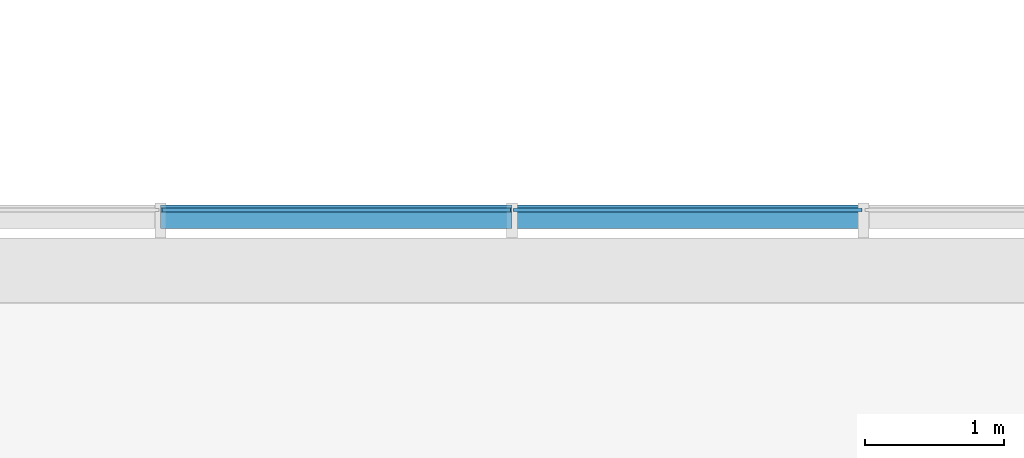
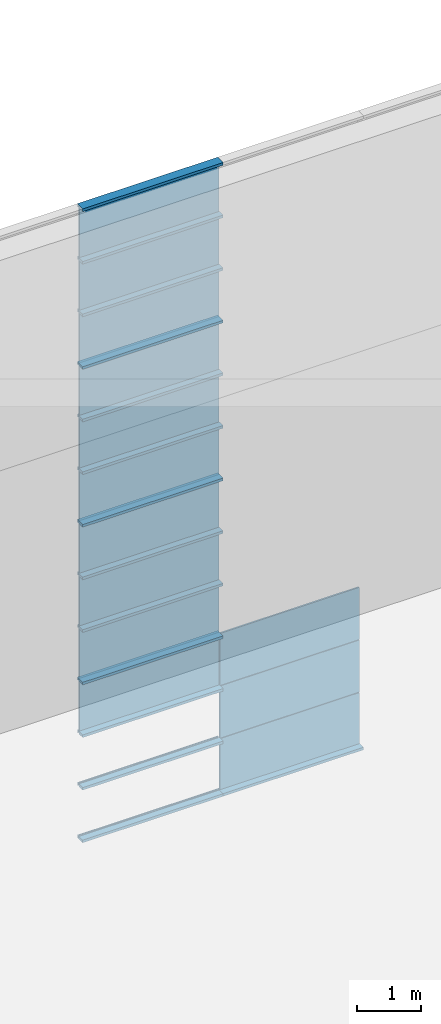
# One storey, part 61 of 105: 30 building element parts, 4 elements without a shape of their own.
"""IFC4 building model written with IfcOpenShell, lengths in millimetres."""

from ifc_helpers import new_model, entity, si_unit, converted_unit, derived_unit, direction, frame, origin_with_axes, place, context, subcontext, project, spatial, triangles, material, element, aggregate, save


model = new_model("IFC4")

# Units and contexts
model_context = context("Model", 3, precision=1e-05, world=origin_with_axes(), true_north=direction((0.0, 1.0)))
body_context = subcontext(model_context, "Body", "Model", "MODEL_VIEW")
ifc_project = project(units=[si_unit("LENGTHUNIT", "METRE", prefix="MILLI"), si_unit("AREAUNIT", "SQUARE_METRE"), si_unit("VOLUMEUNIT", "CUBIC_METRE"), converted_unit("PLANEANGLEUNIT", "DEGREE", entity("IfcLengthMeasure", 0.017453), si_unit("PLANEANGLEUNIT", "RADIAN"), dimensions=[0, 0, 0, 0, 0, 0, 0]), si_unit("SOLIDANGLEUNIT", "STERADIAN"), si_unit("MASSUNIT", "GRAM"), si_unit("TIMEUNIT", "SECOND"), si_unit("THERMODYNAMICTEMPERATUREUNIT", "DEGREE_CELSIUS"), si_unit("LUMINOUSINTENSITYUNIT", "LUMEN"), si_unit("POWERUNIT", "WATT"), derived_unit("THERMALTRANSMITTANCEUNIT", [(si_unit("POWERUNIT", "WATT"), 1), (si_unit("THERMODYNAMICTEMPERATUREUNIT", "KELVIN"), -1), (si_unit("AREAUNIT", "SQUARE_METRE"), -1)])], contexts=[model_context])

# Site, building, storey
site_placement = place(None, origin_with_axes())
site = spatial("IfcSite", under=ifc_project, at=site_placement, Name="Default Site", CompositionType="ELEMENT")
building_placement = place(site_placement, origin_with_axes())
building = spatial("IfcBuilding", under=site, at=building_placement, Name="Default Building", CompositionType="ELEMENT")
storey_placement = place(building_placement, origin_with_axes())
storey = spatial("IfcBuildingStorey", under=building, at=storey_placement, Name="OG - Story", CompositionType="ELEMENT", Elevation=0.0)

# Curtain wall, building element parts
curtain_wall_1_placement = place(storey_placement, origin_with_axes())
curtain_wall_1 = element("IfcCurtainWall", 1, at=curtain_wall_1_placement, inside=storey, Name="Fassade-004", PredefinedType="NOTDEFINED")
ifc_material_1 = material(Name="Normalglas")
building_element_part_1_placement = place(curtain_wall_1_placement, frame((33014.549222, -4389.262838, 0.0), z_axis=(0.0, 0.0, 1.0), x_axis=(1.0, 0.0, 0.0)))
building_element_part_1 = element("IfcBuildingElementPart", 2, at=building_element_part_1_placement, material=ifc_material_1, Name="Normalglas", PredefinedType="NOTDEFINED", context=body_context, shape_type="Tessellation", body=[
    triangles([(39147.895, -14.999, 995.0), (39147.895, 15.0, 995.0), (36641.579, 15.0, 995.0), (36641.579, -14.999, 995.0), (39147.895, -14.999, 5.0), (39147.895, 15.0, 5.0), (36641.579, 15.0, 5.0), (36641.579, -14.999, 5.0)], [[1, 2, 3], [1, 3, 4], [5, 6, 2], [5, 2, 1], [2, 6, 7], [2, 7, 3], [4, 3, 7], [4, 7, 8], [1, 4, 8], [1, 8, 5], [8, 7, 6], [8, 6, 5]], closed=False),
])
building_element_part_2_placement = place(curtain_wall_1_placement, frame((33014.549222, -4389.262838, 0.0), z_axis=(0.0, 0.0, 1.0), x_axis=(1.0, 0.0, 0.0)))
building_element_part_2 = element("IfcBuildingElementPart", 3, at=building_element_part_2_placement, material=ifc_material_1, Name="Normalglas", PredefinedType="NOTDEFINED", context=body_context, shape_type="Tessellation", body=[
    triangles([(39147.895, -14.999, 1995.0), (39147.895, 15.0, 1995.0), (36641.579, 15.0, 1995.0), (36641.579, -14.999, 1995.0), (39147.895, -14.999, 1005.0), (39147.895, 15.0, 1005.0), (36641.579, 15.0, 1005.0), (36641.579, -14.999, 1005.0)], [[1, 2, 3], [1, 3, 4], [5, 6, 2], [5, 2, 1], [2, 6, 7], [2, 7, 3], [4, 3, 7], [4, 7, 8], [1, 4, 8], [1, 8, 5], [8, 7, 6], [8, 6, 5]], closed=False),
])
building_element_part_3_placement = place(curtain_wall_1_placement, frame((33014.549222, -4389.262838, 0.0), z_axis=(0.0, 0.0, 1.0), x_axis=(1.0, 0.0, 0.0)))
building_element_part_3 = element("IfcBuildingElementPart", 4, at=building_element_part_3_placement, material=ifc_material_1, Name="Normalglas", PredefinedType="NOTDEFINED", context=body_context, shape_type="Tessellation", body=[
    triangles([(36621.579, -14.999, 2995.0), (36621.579, 15.0, 2995.0), (34115.263, 15.0, 2995.0), (34115.263, -14.999, 2995.0), (36621.579, -14.999, 2005.0), (36621.579, 15.0, 2005.0), (34115.263, 15.0, 2005.0), (34115.263, -14.999, 2005.0)], [[1, 2, 3], [1, 3, 4], [5, 6, 2], [5, 2, 1], [2, 6, 7], [2, 7, 3], [4, 3, 7], [4, 7, 8], [1, 4, 8], [1, 8, 5], [8, 7, 6], [8, 6, 5]], closed=False),
])
building_element_part_4_placement = place(curtain_wall_1_placement, frame((33014.549222, -4389.262838, 0.0), z_axis=(0.0, 0.0, 1.0), x_axis=(1.0, 0.0, 0.0)))
building_element_part_4 = element("IfcBuildingElementPart", 5, at=building_element_part_4_placement, material=ifc_material_1, Name="Normalglas", PredefinedType="NOTDEFINED", context=body_context, shape_type="Tessellation", body=[
    triangles([(39147.895, -14.999, 2995.0), (39147.895, 15.0, 2995.0), (36641.579, 15.0, 2995.0), (36641.579, -14.999, 2995.0), (39147.895, -14.999, 2005.0), (39147.895, 15.0, 2005.0), (36641.579, 15.0, 2005.0), (36641.579, -14.999, 2005.0)], [[1, 2, 3], [1, 3, 4], [5, 6, 2], [5, 2, 1], [2, 6, 7], [2, 7, 3], [4, 3, 7], [4, 7, 8], [1, 4, 8], [1, 8, 5], [8, 7, 6], [8, 6, 5]], closed=False),
])
ifc_material_2 = material(Name="Blech")
building_element_part_5_placement = place(curtain_wall_1_placement, frame((33014.549222, -4389.262838, 0.0), z_axis=(0.0, 0.0, 1.0), x_axis=(1.0, 0.0, 0.0)))
building_element_part_5 = element("IfcBuildingElementPart", 6, at=building_element_part_5_placement, material=ifc_material_2, Name="Blech", PredefinedType="NOTDEFINED", context=body_context, shape_type="Tessellation", body=[
    triangles([(36631.579, 35.0, -24.999), (36631.579, 35.0, 25.0), (36631.579, 15.0, 25.0), (36631.579, 15.0, 5.0), (36631.579, -14.999, 5.0), (36631.579, -132.999, 25.0), (36631.579, -132.999, -24.999), (36631.579, -14.999, 25.0), (34105.263, -14.999, 5.0), (34105.263, -14.999, 25.0), (34105.263, -132.999, 25.0), (34105.263, -132.999, -24.999), (34105.263, 35.0, -24.999), (34105.263, 35.0, 25.0), (34105.263, 15.0, 25.0), (34105.263, 15.0, 5.0)], [[1, 2, 3], [1, 3, 4], [1, 4, 5], [1, 5, 6], [1, 6, 7], [8, 6, 5], [5, 9, 10], [5, 10, 8], [10, 11, 6], [10, 6, 8], [11, 12, 7], [11, 7, 6], [12, 13, 1], [12, 1, 7], [13, 14, 2], [13, 2, 1], [3, 2, 14], [3, 14, 15], [15, 16, 4], [15, 4, 3], [4, 16, 9], [4, 9, 5], [15, 16, 13], [13, 16, 9], [13, 9, 11], [11, 9, 10], [13, 11, 12], [15, 13, 14]], closed=False),
])
building_element_part_6_placement = place(curtain_wall_1_placement, frame((33014.549222, -4389.262838, 0.0), z_axis=(0.0, 0.0, 1.0), x_axis=(1.0, 0.0, 0.0)))
building_element_part_6 = element("IfcBuildingElementPart", 7, at=building_element_part_6_placement, material=ifc_material_2, Name="Blech", PredefinedType="NOTDEFINED", context=body_context, shape_type="Tessellation", body=[
    triangles([(39157.895, 35.0, -24.999), (39157.895, 35.0, 25.0), (39157.895, 15.0, 25.0), (39157.895, 15.0, 5.0), (39157.895, -14.999, 5.0), (39157.895, -132.999, 25.0), (39157.895, -132.999, -24.999), (39157.895, -14.999, 25.0), (36631.579, -14.999, 5.0), (36631.579, -14.999, 25.0), (36631.579, -132.999, 25.0), (36631.579, -132.999, -24.999), (36631.579, 35.0, -24.999), (36631.579, 35.0, 25.0), (36631.579, 15.0, 25.0), (36631.579, 15.0, 5.0)], [[1, 2, 3], [1, 3, 4], [1, 4, 5], [1, 5, 6], [1, 6, 7], [8, 6, 5], [5, 9, 10], [5, 10, 8], [10, 11, 6], [10, 6, 8], [11, 12, 7], [11, 7, 6], [12, 13, 1], [12, 1, 7], [13, 14, 2], [13, 2, 1], [3, 2, 14], [3, 14, 15], [15, 16, 4], [15, 4, 3], [4, 16, 9], [4, 9, 5], [15, 16, 13], [13, 16, 9], [13, 9, 11], [11, 9, 10], [13, 11, 12], [15, 13, 14]], closed=False),
])
building_element_part_7_placement = place(curtain_wall_1_placement, frame((33014.549222, -4389.262838, 0.0), z_axis=(0.0, 0.0, 1.0), x_axis=(1.0, 0.0, 0.0)))
building_element_part_7 = element("IfcBuildingElementPart", 8, at=building_element_part_7_placement, material=ifc_material_2, Name="Blech", PredefinedType="NOTDEFINED", context=body_context, shape_type="Tessellation", body=[
    triangles([(36631.579, 35.0, 975.0), (36631.579, 15.0, 975.0), (36631.579, 35.0, 1025.0), (36631.579, 15.0, 995.0), (36631.579, 15.0, 1005.0), (36631.579, -14.999, 995.0), (36631.579, -14.999, 1005.0), (36631.579, -14.999, 1025.0), (36631.579, -14.999, 975.0), (36631.579, -132.999, 975.0), (36631.579, -132.999, 1025.0), (36631.579, 15.0, 1025.0), (34105.263, -14.999, 995.0), (34105.263, 15.0, 995.0), (34105.263, 15.0, 975.0), (34105.263, 35.0, 975.0), (34105.263, 35.0, 1025.0), (34105.263, 15.0, 1025.0), (34105.263, 15.0, 1005.0), (34105.263, -14.999, 1005.0), (34105.263, -14.999, 1025.0), (34105.263, -132.999, 1025.0), (34105.263, -132.999, 975.0), (34105.263, -14.999, 975.0)], [[1, 2, 3], [3, 2, 4], [3, 4, 5], [5, 4, 6], [5, 6, 7], [8, 9, 10], [8, 10, 11], [3, 5, 12], [6, 13, 14], [6, 14, 4], [4, 14, 15], [4, 15, 2], [15, 16, 1], [15, 1, 2], [1, 16, 17], [1, 17, 3], [18, 12, 3], [18, 3, 17], [12, 18, 19], [12, 19, 5], [7, 5, 19], [7, 19, 20], [8, 7, 20], [8, 20, 21], [8, 21, 22], [8, 22, 11], [11, 22, 23], [11, 23, 10], [9, 10, 23], [9, 23, 24], [9, 24, 13], [9, 13, 6], [17, 18, 16], [16, 18, 19], [16, 19, 14], [14, 19, 20], [14, 20, 13], [24, 21, 22], [24, 22, 23], [16, 14, 15]], closed=False),
])
building_element_part_8_placement = place(curtain_wall_1_placement, frame((33014.549222, -4389.262838, 0.0), z_axis=(0.0, 0.0, 1.0), x_axis=(1.0, 0.0, 0.0)))
building_element_part_8 = element("IfcBuildingElementPart", 9, at=building_element_part_8_placement, material=ifc_material_2, Name="Blech", PredefinedType="NOTDEFINED", context=body_context, shape_type="Tessellation", body=[
    triangles([(36631.579, 35.0, 1975.0), (36631.579, 15.0, 1975.0), (36631.579, 35.0, 2025.0), (36631.579, 15.0, 1995.0), (36631.579, 15.0, 2005.0), (36631.579, -14.999, 1995.0), (36631.579, -14.999, 2005.0), (36631.579, -14.999, 2025.0), (36631.579, -14.999, 1975.0), (36631.579, -132.999, 1975.0), (36631.579, -132.999, 2025.0), (36631.579, 15.0, 2025.0), (34105.263, -14.999, 1995.0), (34105.263, 15.0, 1995.0), (34105.263, 15.0, 1975.0), (34105.263, 35.0, 1975.0), (34105.263, 35.0, 2025.0), (34105.263, 15.0, 2025.0), (34105.263, 15.0, 2005.0), (34105.263, -14.999, 2005.0), (34105.263, -14.999, 2025.0), (34105.263, -132.999, 2025.0), (34105.263, -132.999, 1975.0), (34105.263, -14.999, 1975.0)], [[1, 2, 3], [3, 2, 4], [3, 4, 5], [5, 4, 6], [5, 6, 7], [8, 9, 10], [8, 10, 11], [3, 5, 12], [6, 13, 14], [6, 14, 4], [4, 14, 15], [4, 15, 2], [15, 16, 1], [15, 1, 2], [1, 16, 17], [1, 17, 3], [18, 12, 3], [18, 3, 17], [12, 18, 19], [12, 19, 5], [7, 5, 19], [7, 19, 20], [8, 7, 20], [8, 20, 21], [8, 21, 22], [8, 22, 11], [11, 22, 23], [11, 23, 10], [9, 10, 23], [9, 23, 24], [9, 24, 13], [9, 13, 6], [17, 18, 16], [16, 18, 19], [16, 19, 14], [14, 19, 20], [14, 20, 13], [24, 21, 22], [24, 22, 23], [16, 14, 15]], closed=False),
])
building_element_part_9_placement = place(curtain_wall_1_placement, frame((33014.549222, -4389.262838, 0.0), z_axis=(0.0, 0.0, 1.0), x_axis=(1.0, 0.0, 0.0)))
building_element_part_9 = element("IfcBuildingElementPart", 10, at=building_element_part_9_placement, material=ifc_material_2, Name="Blech", PredefinedType="NOTDEFINED", context=body_context, shape_type="Tessellation", body=[
    triangles([(36631.579, 15.0, 2975.0), (36631.579, 15.0, 2995.0), (36631.579, 35.0, 3025.0), (36631.579, -14.999, 2995.0), (36631.579, -132.999, 2975.0), (36631.579, -14.999, 2975.0), (36631.579, -132.999, 3025.0), (36631.579, 35.0, 2975.0), (34105.263, -14.999, 2995.0), (34105.263, 15.0, 2995.0), (34105.263, 15.0, 2975.0), (34105.263, 35.0, 2975.0), (34105.263, 35.0, 3025.0), (34105.263, -132.999, 3025.0), (34105.263, -132.999, 2975.0), (34105.263, -14.999, 2975.0)], [[1, 2, 3], [3, 2, 4], [3, 4, 5], [5, 4, 6], [3, 5, 7], [1, 3, 8], [2, 4, 9], [2, 9, 10], [11, 1, 2], [11, 2, 10], [1, 11, 12], [1, 12, 8], [13, 3, 8], [13, 8, 12], [14, 7, 3], [14, 3, 13], [15, 5, 7], [15, 7, 14], [16, 6, 5], [16, 5, 15], [4, 6, 16], [4, 16, 9], [13, 12, 11], [13, 11, 10], [13, 10, 9], [13, 9, 15], [13, 15, 14], [16, 15, 9]], closed=False),
])
aggregate(curtain_wall_1, [building_element_part_1, building_element_part_2, building_element_part_3, building_element_part_4, building_element_part_5, building_element_part_6, building_element_part_7, building_element_part_8, building_element_part_9])

curtain_wall_2_placement = place(storey_placement, origin_with_axes())
curtain_wall_2 = element("IfcCurtainWall", 11, at=curtain_wall_2_placement, inside=storey, Name="Fassade-004", PredefinedType="NOTDEFINED")
building_element_part_10_placement = place(curtain_wall_2_placement, frame((33014.549222, -4389.262838, 3000.0), z_axis=(0.0, 0.0, 1.0), x_axis=(1.0, 0.0, 0.0)))
building_element_part_10 = element("IfcBuildingElementPart", 12, at=building_element_part_10_placement, material=ifc_material_1, Name="Normalglas", PredefinedType="NOTDEFINED", context=body_context, shape_type="Tessellation", body=[
    triangles([(36621.579, -14.999, 995.0), (36621.579, 15.0, 995.0), (34115.263, 15.0, 995.0), (34115.263, -14.999, 995.0), (36621.579, -14.999, 5.0), (36621.579, 15.0, 5.0), (34115.263, 15.0, 5.0), (34115.263, -14.999, 5.0)], [[1, 2, 3], [1, 3, 4], [5, 6, 2], [5, 2, 1], [2, 6, 7], [2, 7, 3], [4, 3, 7], [4, 7, 8], [1, 4, 8], [1, 8, 5], [8, 7, 6], [8, 6, 5]], closed=False),
])
building_element_part_11_placement = place(curtain_wall_2_placement, frame((33014.549222, -4389.262838, 3000.0), z_axis=(0.0, 0.0, 1.0), x_axis=(1.0, 0.0, 0.0)))
building_element_part_11 = element("IfcBuildingElementPart", 13, at=building_element_part_11_placement, material=ifc_material_1, Name="Normalglas", PredefinedType="NOTDEFINED", context=body_context, shape_type="Tessellation", body=[
    triangles([(36621.579, -14.999, 1995.0), (36621.579, 15.0, 1995.0), (34115.263, 15.0, 1995.0), (34115.263, -14.999, 1995.0), (36621.579, -14.999, 1005.0), (36621.579, 15.0, 1005.0), (34115.263, 15.0, 1005.0), (34115.263, -14.999, 1005.0)], [[1, 2, 3], [1, 3, 4], [5, 6, 2], [5, 2, 1], [2, 6, 7], [2, 7, 3], [4, 3, 7], [4, 7, 8], [1, 4, 8], [1, 8, 5], [8, 7, 6], [8, 6, 5]], closed=False),
])
building_element_part_12_placement = place(curtain_wall_2_placement, frame((33014.549222, -4389.262838, 3000.0), z_axis=(0.0, 0.0, 1.0), x_axis=(1.0, 0.0, 0.0)))
building_element_part_12 = element("IfcBuildingElementPart", 14, at=building_element_part_12_placement, material=ifc_material_1, Name="Normalglas", PredefinedType="NOTDEFINED", context=body_context, shape_type="Tessellation", body=[
    triangles([(36621.579, -14.999, 2995.0), (36621.579, 15.0, 2995.0), (34115.263, 15.0, 2995.0), (34115.263, -14.999, 2995.0), (36621.579, -14.999, 2005.0), (36621.579, 15.0, 2005.0), (34115.263, 15.0, 2005.0), (34115.263, -14.999, 2005.0)], [[1, 2, 3], [1, 3, 4], [5, 6, 2], [5, 2, 1], [2, 6, 7], [2, 7, 3], [4, 3, 7], [4, 7, 8], [1, 4, 8], [1, 8, 5], [8, 7, 6], [8, 6, 5]], closed=False),
])
building_element_part_13_placement = place(curtain_wall_2_placement, frame((33014.549222, -4389.262838, 3000.0), z_axis=(0.0, 0.0, 1.0), x_axis=(1.0, 0.0, 0.0)))
building_element_part_13 = element("IfcBuildingElementPart", 15, at=building_element_part_13_placement, material=ifc_material_2, Name="Blech", PredefinedType="NOTDEFINED", context=body_context, shape_type="Tessellation", body=[
    triangles([(36631.579, 35.0, -24.999), (36631.579, 35.0, 25.0), (36631.579, 15.0, 25.0), (36631.579, 15.0, 5.0), (36631.579, -14.999, 5.0), (36631.579, -132.999, 25.0), (36631.579, -132.999, -24.999), (36631.579, -14.999, 25.0), (34105.263, -14.999, 5.0), (34105.263, -14.999, 25.0), (34105.263, -132.999, 25.0), (34105.263, -132.999, -24.999), (34105.263, 35.0, -24.999), (34105.263, 35.0, 25.0), (34105.263, 15.0, 25.0), (34105.263, 15.0, 5.0)], [[1, 2, 3], [1, 3, 4], [1, 4, 5], [1, 5, 6], [1, 6, 7], [8, 6, 5], [5, 9, 10], [5, 10, 8], [10, 11, 6], [10, 6, 8], [11, 12, 7], [11, 7, 6], [12, 13, 1], [12, 1, 7], [13, 14, 2], [13, 2, 1], [3, 2, 14], [3, 14, 15], [15, 16, 4], [15, 4, 3], [4, 16, 9], [4, 9, 5], [15, 16, 13], [13, 16, 9], [13, 9, 11], [11, 9, 10], [13, 11, 12], [15, 13, 14]], closed=False),
])
building_element_part_14_placement = place(curtain_wall_2_placement, frame((33014.549222, -4389.262838, 3000.0), z_axis=(0.0, 0.0, 1.0), x_axis=(1.0, 0.0, 0.0)))
building_element_part_14 = element("IfcBuildingElementPart", 16, at=building_element_part_14_placement, material=ifc_material_2, Name="Blech", PredefinedType="NOTDEFINED", context=body_context, shape_type="Tessellation", body=[
    triangles([(36631.579, 35.0, 975.0), (36631.579, 15.0, 975.0), (36631.579, 35.0, 1025.0), (36631.579, 15.0, 995.0), (36631.579, 15.0, 1005.0), (36631.579, -14.999, 995.0), (36631.579, -14.999, 1005.0), (36631.579, -14.999, 1025.0), (36631.579, -14.999, 975.0), (36631.579, -132.999, 975.0), (36631.579, -132.999, 1025.0), (36631.579, 15.0, 1025.0), (34105.263, -14.999, 995.0), (34105.263, 15.0, 995.0), (34105.263, 15.0, 975.0), (34105.263, 35.0, 975.0), (34105.263, 35.0, 1025.0), (34105.263, 15.0, 1025.0), (34105.263, 15.0, 1005.0), (34105.263, -14.999, 1005.0), (34105.263, -14.999, 1025.0), (34105.263, -132.999, 1025.0), (34105.263, -132.999, 975.0), (34105.263, -14.999, 975.0)], [[1, 2, 3], [3, 2, 4], [3, 4, 5], [5, 4, 6], [5, 6, 7], [8, 9, 10], [8, 10, 11], [3, 5, 12], [6, 13, 14], [6, 14, 4], [4, 14, 15], [4, 15, 2], [15, 16, 1], [15, 1, 2], [1, 16, 17], [1, 17, 3], [18, 12, 3], [18, 3, 17], [12, 18, 19], [12, 19, 5], [7, 5, 19], [7, 19, 20], [8, 7, 20], [8, 20, 21], [8, 21, 22], [8, 22, 11], [11, 22, 23], [11, 23, 10], [9, 10, 23], [9, 23, 24], [9, 24, 13], [9, 13, 6], [17, 18, 16], [16, 18, 19], [16, 19, 14], [14, 19, 20], [14, 20, 13], [24, 21, 22], [24, 22, 23], [16, 14, 15]], closed=False),
])
building_element_part_15_placement = place(curtain_wall_2_placement, frame((33014.549222, -4389.262838, 3000.0), z_axis=(0.0, 0.0, 1.0), x_axis=(1.0, 0.0, 0.0)))
building_element_part_15 = element("IfcBuildingElementPart", 17, at=building_element_part_15_placement, material=ifc_material_2, Name="Blech", PredefinedType="NOTDEFINED", context=body_context, shape_type="Tessellation", body=[
    triangles([(36631.579, 35.0, 1975.0), (36631.579, 15.0, 1975.0), (36631.579, 35.0, 2025.0), (36631.579, 15.0, 1995.0), (36631.579, 15.0, 2005.0), (36631.579, -14.999, 1995.0), (36631.579, -14.999, 2005.0), (36631.579, -14.999, 2025.0), (36631.579, -14.999, 1975.0), (36631.579, -132.999, 1975.0), (36631.579, -132.999, 2025.0), (36631.579, 15.0, 2025.0), (34105.263, -14.999, 1995.0), (34105.263, 15.0, 1995.0), (34105.263, 15.0, 1975.0), (34105.263, 35.0, 1975.0), (34105.263, 35.0, 2025.0), (34105.263, 15.0, 2025.0), (34105.263, 15.0, 2005.0), (34105.263, -14.999, 2005.0), (34105.263, -14.999, 2025.0), (34105.263, -132.999, 2025.0), (34105.263, -132.999, 1975.0), (34105.263, -14.999, 1975.0)], [[1, 2, 3], [3, 2, 4], [3, 4, 5], [5, 4, 6], [5, 6, 7], [8, 9, 10], [8, 10, 11], [3, 5, 12], [6, 13, 14], [6, 14, 4], [4, 14, 15], [4, 15, 2], [15, 16, 1], [15, 1, 2], [1, 16, 17], [1, 17, 3], [18, 12, 3], [18, 3, 17], [12, 18, 19], [12, 19, 5], [7, 5, 19], [7, 19, 20], [8, 7, 20], [8, 20, 21], [8, 21, 22], [8, 22, 11], [11, 22, 23], [11, 23, 10], [9, 10, 23], [9, 23, 24], [9, 24, 13], [9, 13, 6], [17, 18, 16], [16, 18, 19], [16, 19, 14], [14, 19, 20], [14, 20, 13], [24, 21, 22], [24, 22, 23], [16, 14, 15]], closed=False),
])
building_element_part_16_placement = place(curtain_wall_2_placement, frame((33014.549222, -4389.262838, 3000.0), z_axis=(0.0, 0.0, 1.0), x_axis=(1.0, 0.0, 0.0)))
building_element_part_16 = element("IfcBuildingElementPart", 18, at=building_element_part_16_placement, material=ifc_material_2, Name="Blech", PredefinedType="NOTDEFINED", context=body_context, shape_type="Tessellation", body=[
    triangles([(36631.579, 15.0, 2975.0), (36631.579, 15.0, 2995.0), (36631.579, 35.0, 3025.0), (36631.579, -14.999, 2995.0), (36631.579, -132.999, 2975.0), (36631.579, -14.999, 2975.0), (36631.579, -132.999, 3025.0), (36631.579, 35.0, 2975.0), (34105.263, -14.999, 2995.0), (34105.263, 15.0, 2995.0), (34105.263, 15.0, 2975.0), (34105.263, 35.0, 2975.0), (34105.263, 35.0, 3025.0), (34105.263, -132.999, 3025.0), (34105.263, -132.999, 2975.0), (34105.263, -14.999, 2975.0)], [[1, 2, 3], [3, 2, 4], [3, 4, 5], [5, 4, 6], [3, 5, 7], [1, 3, 8], [2, 4, 9], [2, 9, 10], [11, 1, 2], [11, 2, 10], [1, 11, 12], [1, 12, 8], [13, 3, 8], [13, 8, 12], [14, 7, 3], [14, 3, 13], [15, 5, 7], [15, 7, 14], [16, 6, 5], [16, 5, 15], [4, 6, 16], [4, 16, 9], [13, 12, 11], [13, 11, 10], [13, 10, 9], [13, 9, 15], [13, 15, 14], [16, 15, 9]], closed=False),
])
aggregate(curtain_wall_2, [building_element_part_10, building_element_part_11, building_element_part_12, building_element_part_13, building_element_part_14, building_element_part_15, building_element_part_16])

curtain_wall_3_placement = place(storey_placement, origin_with_axes())
curtain_wall_3 = element("IfcCurtainWall", 19, at=curtain_wall_3_placement, inside=storey, Name="Fassade-004", PredefinedType="NOTDEFINED")
building_element_part_17_placement = place(curtain_wall_3_placement, frame((33014.549222, -4389.262838, 6000.0), z_axis=(0.0, 0.0, 1.0), x_axis=(1.0, 0.0, 0.0)))
building_element_part_17 = element("IfcBuildingElementPart", 20, at=building_element_part_17_placement, material=ifc_material_1, Name="Normalglas", PredefinedType="NOTDEFINED", context=body_context, shape_type="Tessellation", body=[
    triangles([(36621.579, -14.999, 995.0), (36621.579, 15.0, 995.0), (34115.263, 15.0, 995.0), (34115.263, -14.999, 995.0), (36621.579, -14.999, 5.0), (36621.579, 15.0, 5.0), (34115.263, 15.0, 5.0), (34115.263, -14.999, 5.0)], [[1, 2, 3], [1, 3, 4], [5, 6, 2], [5, 2, 1], [2, 6, 7], [2, 7, 3], [4, 3, 7], [4, 7, 8], [1, 4, 8], [1, 8, 5], [8, 7, 6], [8, 6, 5]], closed=False),
])
building_element_part_18_placement = place(curtain_wall_3_placement, frame((33014.549222, -4389.262838, 6000.0), z_axis=(0.0, 0.0, 1.0), x_axis=(1.0, 0.0, 0.0)))
building_element_part_18 = element("IfcBuildingElementPart", 21, at=building_element_part_18_placement, material=ifc_material_1, Name="Normalglas", PredefinedType="NOTDEFINED", context=body_context, shape_type="Tessellation", body=[
    triangles([(36621.579, -14.999, 1995.0), (36621.579, 15.0, 1995.0), (34115.263, 15.0, 1995.0), (34115.263, -14.999, 1995.0), (36621.579, -14.999, 1005.0), (36621.579, 15.0, 1005.0), (34115.263, 15.0, 1005.0), (34115.263, -14.999, 1005.0)], [[1, 2, 3], [1, 3, 4], [5, 6, 2], [5, 2, 1], [2, 6, 7], [2, 7, 3], [4, 3, 7], [4, 7, 8], [1, 4, 8], [1, 8, 5], [8, 7, 6], [8, 6, 5]], closed=False),
])
building_element_part_19_placement = place(curtain_wall_3_placement, frame((33014.549222, -4389.262838, 6000.0), z_axis=(0.0, 0.0, 1.0), x_axis=(1.0, 0.0, 0.0)))
building_element_part_19 = element("IfcBuildingElementPart", 22, at=building_element_part_19_placement, material=ifc_material_1, Name="Normalglas", PredefinedType="NOTDEFINED", context=body_context, shape_type="Tessellation", body=[
    triangles([(36621.579, -14.999, 2995.0), (36621.579, 15.0, 2995.0), (34115.263, 15.0, 2995.0), (34115.263, -14.999, 2995.0), (36621.579, -14.999, 2005.0), (36621.579, 15.0, 2005.0), (34115.263, 15.0, 2005.0), (34115.263, -14.999, 2005.0)], [[1, 2, 3], [1, 3, 4], [5, 6, 2], [5, 2, 1], [2, 6, 7], [2, 7, 3], [4, 3, 7], [4, 7, 8], [1, 4, 8], [1, 8, 5], [8, 7, 6], [8, 6, 5]], closed=False),
])
building_element_part_20_placement = place(curtain_wall_3_placement, frame((33014.549222, -4389.262838, 6000.0), z_axis=(0.0, 0.0, 1.0), x_axis=(1.0, 0.0, 0.0)))
building_element_part_20 = element("IfcBuildingElementPart", 23, at=building_element_part_20_placement, material=ifc_material_2, Name="Blech", PredefinedType="NOTDEFINED", context=body_context, shape_type="Tessellation", body=[
    triangles([(36631.579, 35.0, -24.999), (36631.579, 35.0, 25.0), (36631.579, 15.0, 25.0), (36631.579, 15.0, 5.0), (36631.579, -14.999, 5.0), (36631.579, -132.999, 25.0), (36631.579, -132.999, -24.999), (36631.579, -14.999, 25.0), (34105.263, -14.999, 5.0), (34105.263, -14.999, 25.0), (34105.263, -132.999, 25.0), (34105.263, -132.999, -24.999), (34105.263, 35.0, -24.999), (34105.263, 35.0, 25.0), (34105.263, 15.0, 25.0), (34105.263, 15.0, 5.0)], [[1, 2, 3], [1, 3, 4], [1, 4, 5], [1, 5, 6], [1, 6, 7], [8, 6, 5], [5, 9, 10], [5, 10, 8], [10, 11, 6], [10, 6, 8], [11, 12, 7], [11, 7, 6], [12, 13, 1], [12, 1, 7], [13, 14, 2], [13, 2, 1], [3, 2, 14], [3, 14, 15], [15, 16, 4], [15, 4, 3], [4, 16, 9], [4, 9, 5], [15, 16, 13], [13, 16, 9], [13, 9, 11], [11, 9, 10], [13, 11, 12], [15, 13, 14]], closed=False),
])
building_element_part_21_placement = place(curtain_wall_3_placement, frame((33014.549222, -4389.262838, 6000.0), z_axis=(0.0, 0.0, 1.0), x_axis=(1.0, 0.0, 0.0)))
building_element_part_21 = element("IfcBuildingElementPart", 24, at=building_element_part_21_placement, material=ifc_material_2, Name="Blech", PredefinedType="NOTDEFINED", context=body_context, shape_type="Tessellation", body=[
    triangles([(36631.579, 35.0, 975.0), (36631.579, 15.0, 975.0), (36631.579, 35.0, 1025.0), (36631.579, 15.0, 995.0), (36631.579, 15.0, 1005.0), (36631.579, -14.999, 995.0), (36631.579, -14.999, 1005.0), (36631.579, -14.999, 1025.0), (36631.579, -14.999, 975.0), (36631.579, -132.999, 975.0), (36631.579, -132.999, 1025.0), (36631.579, 15.0, 1025.0), (34105.263, -14.999, 995.0), (34105.263, 15.0, 995.0), (34105.263, 15.0, 975.0), (34105.263, 35.0, 975.0), (34105.263, 35.0, 1025.0), (34105.263, 15.0, 1025.0), (34105.263, 15.0, 1005.0), (34105.263, -14.999, 1005.0), (34105.263, -14.999, 1025.0), (34105.263, -132.999, 1025.0), (34105.263, -132.999, 975.0), (34105.263, -14.999, 975.0)], [[1, 2, 3], [3, 2, 4], [3, 4, 5], [5, 4, 6], [5, 6, 7], [8, 9, 10], [8, 10, 11], [3, 5, 12], [6, 13, 14], [6, 14, 4], [4, 14, 15], [4, 15, 2], [15, 16, 1], [15, 1, 2], [1, 16, 17], [1, 17, 3], [18, 12, 3], [18, 3, 17], [12, 18, 19], [12, 19, 5], [7, 5, 19], [7, 19, 20], [8, 7, 20], [8, 20, 21], [8, 21, 22], [8, 22, 11], [11, 22, 23], [11, 23, 10], [9, 10, 23], [9, 23, 24], [9, 24, 13], [9, 13, 6], [17, 18, 16], [16, 18, 19], [16, 19, 14], [14, 19, 20], [14, 20, 13], [24, 21, 22], [24, 22, 23], [16, 14, 15]], closed=False),
])
building_element_part_22_placement = place(curtain_wall_3_placement, frame((33014.549222, -4389.262838, 6000.0), z_axis=(0.0, 0.0, 1.0), x_axis=(1.0, 0.0, 0.0)))
building_element_part_22 = element("IfcBuildingElementPart", 25, at=building_element_part_22_placement, material=ifc_material_2, Name="Blech", PredefinedType="NOTDEFINED", context=body_context, shape_type="Tessellation", body=[
    triangles([(36631.579, 35.0, 1975.0), (36631.579, 15.0, 1975.0), (36631.579, 35.0, 2025.0), (36631.579, 15.0, 1995.0), (36631.579, 15.0, 2005.0), (36631.579, -14.999, 1995.0), (36631.579, -14.999, 2005.0), (36631.579, -14.999, 2025.0), (36631.579, -14.999, 1975.0), (36631.579, -132.999, 1975.0), (36631.579, -132.999, 2025.0), (36631.579, 15.0, 2025.0), (34105.263, -14.999, 1995.0), (34105.263, 15.0, 1995.0), (34105.263, 15.0, 1975.0), (34105.263, 35.0, 1975.0), (34105.263, 35.0, 2025.0), (34105.263, 15.0, 2025.0), (34105.263, 15.0, 2005.0), (34105.263, -14.999, 2005.0), (34105.263, -14.999, 2025.0), (34105.263, -132.999, 2025.0), (34105.263, -132.999, 1975.0), (34105.263, -14.999, 1975.0)], [[1, 2, 3], [3, 2, 4], [3, 4, 5], [5, 4, 6], [5, 6, 7], [8, 9, 10], [8, 10, 11], [3, 5, 12], [6, 13, 14], [6, 14, 4], [4, 14, 15], [4, 15, 2], [15, 16, 1], [15, 1, 2], [1, 16, 17], [1, 17, 3], [18, 12, 3], [18, 3, 17], [12, 18, 19], [12, 19, 5], [7, 5, 19], [7, 19, 20], [8, 7, 20], [8, 20, 21], [8, 21, 22], [8, 22, 11], [11, 22, 23], [11, 23, 10], [9, 10, 23], [9, 23, 24], [9, 24, 13], [9, 13, 6], [17, 18, 16], [16, 18, 19], [16, 19, 14], [14, 19, 20], [14, 20, 13], [24, 21, 22], [24, 22, 23], [16, 14, 15]], closed=False),
])
building_element_part_23_placement = place(curtain_wall_3_placement, frame((33014.549222, -4389.262838, 6000.0), z_axis=(0.0, 0.0, 1.0), x_axis=(1.0, 0.0, 0.0)))
building_element_part_23 = element("IfcBuildingElementPart", 26, at=building_element_part_23_placement, material=ifc_material_2, Name="Blech", PredefinedType="NOTDEFINED", context=body_context, shape_type="Tessellation", body=[
    triangles([(36631.579, 15.0, 2975.0), (36631.579, 15.0, 2995.0), (36631.579, 35.0, 3025.0), (36631.579, -14.999, 2995.0), (36631.579, -132.999, 2975.0), (36631.579, -14.999, 2975.0), (36631.579, -132.999, 3025.0), (36631.579, 35.0, 2975.0), (34105.263, -14.999, 2995.0), (34105.263, 15.0, 2995.0), (34105.263, 15.0, 2975.0), (34105.263, 35.0, 2975.0), (34105.263, 35.0, 3025.0), (34105.263, -132.999, 3025.0), (34105.263, -132.999, 2975.0), (34105.263, -14.999, 2975.0)], [[1, 2, 3], [3, 2, 4], [3, 4, 5], [5, 4, 6], [3, 5, 7], [1, 3, 8], [2, 4, 9], [2, 9, 10], [11, 1, 2], [11, 2, 10], [1, 11, 12], [1, 12, 8], [13, 3, 8], [13, 8, 12], [14, 7, 3], [14, 3, 13], [15, 5, 7], [15, 7, 14], [16, 6, 5], [16, 5, 15], [4, 6, 16], [4, 16, 9], [13, 12, 11], [13, 11, 10], [13, 10, 9], [13, 9, 15], [13, 15, 14], [16, 15, 9]], closed=False),
])
aggregate(curtain_wall_3, [building_element_part_17, building_element_part_18, building_element_part_19, building_element_part_20, building_element_part_21, building_element_part_22, building_element_part_23])

curtain_wall_4_placement = place(storey_placement, origin_with_axes())
curtain_wall_4 = element("IfcCurtainWall", 27, at=curtain_wall_4_placement, inside=storey, Name="Fassade-004", PredefinedType="NOTDEFINED")
building_element_part_24_placement = place(curtain_wall_4_placement, frame((33014.549222, -4389.262838, 9000.0), z_axis=(0.0, 0.0, 1.0), x_axis=(1.0, 0.0, 0.0)))
building_element_part_24 = element("IfcBuildingElementPart", 28, at=building_element_part_24_placement, material=ifc_material_1, Name="Normalglas", PredefinedType="NOTDEFINED", context=body_context, shape_type="Tessellation", body=[
    triangles([(36621.579, -14.999, 995.0), (36621.579, 15.0, 995.0), (34115.263, 15.0, 995.0), (34115.263, -14.999, 995.0), (36621.579, -14.999, 5.0), (36621.579, 15.0, 5.0), (34115.263, 15.0, 5.0), (34115.263, -14.999, 5.0)], [[1, 2, 3], [1, 3, 4], [5, 6, 2], [5, 2, 1], [2, 6, 7], [2, 7, 3], [4, 3, 7], [4, 7, 8], [1, 4, 8], [1, 8, 5], [8, 7, 6], [8, 6, 5]], closed=False),
])
building_element_part_25_placement = place(curtain_wall_4_placement, frame((33014.549222, -4389.262838, 9000.0), z_axis=(0.0, 0.0, 1.0), x_axis=(1.0, 0.0, 0.0)))
building_element_part_25 = element("IfcBuildingElementPart", 29, at=building_element_part_25_placement, material=ifc_material_1, Name="Normalglas", PredefinedType="NOTDEFINED", context=body_context, shape_type="Tessellation", body=[
    triangles([(36621.579, -14.999, 1995.0), (36621.579, 15.0, 1995.0), (34115.263, 15.0, 1995.0), (34115.263, -14.999, 1995.0), (36621.579, -14.999, 1005.0), (36621.579, 15.0, 1005.0), (34115.263, 15.0, 1005.0), (34115.263, -14.999, 1005.0)], [[1, 2, 3], [1, 3, 4], [5, 6, 2], [5, 2, 1], [2, 6, 7], [2, 7, 3], [4, 3, 7], [4, 7, 8], [1, 4, 8], [1, 8, 5], [8, 7, 6], [8, 6, 5]], closed=False),
])
building_element_part_26_placement = place(curtain_wall_4_placement, frame((33014.549222, -4389.262838, 9000.0), z_axis=(0.0, 0.0, 1.0), x_axis=(1.0, 0.0, 0.0)))
building_element_part_26 = element("IfcBuildingElementPart", 30, at=building_element_part_26_placement, material=ifc_material_1, Name="Normalglas", PredefinedType="NOTDEFINED", context=body_context, shape_type="Tessellation", body=[
    triangles([(36621.579, -14.999, 2995.0), (36621.579, 15.0, 2995.0), (34115.263, 15.0, 2995.0), (34115.263, -14.999, 2995.0), (36621.579, -14.999, 2005.0), (36621.579, 15.0, 2005.0), (34115.263, 15.0, 2005.0), (34115.263, -14.999, 2005.0)], [[1, 2, 3], [1, 3, 4], [5, 6, 2], [5, 2, 1], [2, 6, 7], [2, 7, 3], [4, 3, 7], [4, 7, 8], [1, 4, 8], [1, 8, 5], [8, 7, 6], [8, 6, 5]], closed=False),
])
building_element_part_27_placement = place(curtain_wall_4_placement, frame((33014.549222, -4389.262838, 9000.0), z_axis=(0.0, 0.0, 1.0), x_axis=(1.0, 0.0, 0.0)))
building_element_part_27 = element("IfcBuildingElementPart", 31, at=building_element_part_27_placement, material=ifc_material_2, Name="Blech", PredefinedType="NOTDEFINED", context=body_context, shape_type="Tessellation", body=[
    triangles([(36631.579, 35.0, -24.999), (36631.579, 35.0, 25.0), (36631.579, 15.0, 25.0), (36631.579, 15.0, 5.0), (36631.579, -14.999, 5.0), (36631.579, -132.999, 25.0), (36631.579, -132.999, -24.999), (36631.579, -14.999, 25.0), (34105.263, -14.999, 5.0), (34105.263, -14.999, 25.0), (34105.263, -132.999, 25.0), (34105.263, -132.999, -24.999), (34105.263, 35.0, -24.999), (34105.263, 35.0, 25.0), (34105.263, 15.0, 25.0), (34105.263, 15.0, 5.0)], [[1, 2, 3], [1, 3, 4], [1, 4, 5], [1, 5, 6], [1, 6, 7], [8, 6, 5], [5, 9, 10], [5, 10, 8], [10, 11, 6], [10, 6, 8], [11, 12, 7], [11, 7, 6], [12, 13, 1], [12, 1, 7], [13, 14, 2], [13, 2, 1], [3, 2, 14], [3, 14, 15], [15, 16, 4], [15, 4, 3], [4, 16, 9], [4, 9, 5], [15, 16, 13], [13, 16, 9], [13, 9, 11], [11, 9, 10], [13, 11, 12], [15, 13, 14]], closed=False),
])
building_element_part_28_placement = place(curtain_wall_4_placement, frame((33014.549222, -4389.262838, 9000.0), z_axis=(0.0, 0.0, 1.0), x_axis=(1.0, 0.0, 0.0)))
building_element_part_28 = element("IfcBuildingElementPart", 32, at=building_element_part_28_placement, material=ifc_material_2, Name="Blech", PredefinedType="NOTDEFINED", context=body_context, shape_type="Tessellation", body=[
    triangles([(36631.579, 35.0, 975.0), (36631.579, 15.0, 975.0), (36631.579, 35.0, 1025.0), (36631.579, 15.0, 995.0), (36631.579, 15.0, 1005.0), (36631.579, -14.999, 995.0), (36631.579, -14.999, 1005.0), (36631.579, -14.999, 1025.0), (36631.579, -14.999, 975.0), (36631.579, -132.999, 975.0), (36631.579, -132.999, 1025.0), (36631.579, 15.0, 1025.0), (34105.263, -14.999, 995.0), (34105.263, 15.0, 995.0), (34105.263, 15.0, 975.0), (34105.263, 35.0, 975.0), (34105.263, 35.0, 1025.0), (34105.263, 15.0, 1025.0), (34105.263, 15.0, 1005.0), (34105.263, -14.999, 1005.0), (34105.263, -14.999, 1025.0), (34105.263, -132.999, 1025.0), (34105.263, -132.999, 975.0), (34105.263, -14.999, 975.0)], [[1, 2, 3], [3, 2, 4], [3, 4, 5], [5, 4, 6], [5, 6, 7], [8, 9, 10], [8, 10, 11], [3, 5, 12], [6, 13, 14], [6, 14, 4], [4, 14, 15], [4, 15, 2], [15, 16, 1], [15, 1, 2], [1, 16, 17], [1, 17, 3], [18, 12, 3], [18, 3, 17], [12, 18, 19], [12, 19, 5], [7, 5, 19], [7, 19, 20], [8, 7, 20], [8, 20, 21], [8, 21, 22], [8, 22, 11], [11, 22, 23], [11, 23, 10], [9, 10, 23], [9, 23, 24], [9, 24, 13], [9, 13, 6], [17, 18, 16], [16, 18, 19], [16, 19, 14], [14, 19, 20], [14, 20, 13], [24, 21, 22], [24, 22, 23], [16, 14, 15]], closed=False),
])
building_element_part_29_placement = place(curtain_wall_4_placement, frame((33014.549222, -4389.262838, 9000.0), z_axis=(0.0, 0.0, 1.0), x_axis=(1.0, 0.0, 0.0)))
building_element_part_29 = element("IfcBuildingElementPart", 33, at=building_element_part_29_placement, material=ifc_material_2, Name="Blech", PredefinedType="NOTDEFINED", context=body_context, shape_type="Tessellation", body=[
    triangles([(36631.579, 35.0, 1975.0), (36631.579, 15.0, 1975.0), (36631.579, 35.0, 2025.0), (36631.579, 15.0, 1995.0), (36631.579, 15.0, 2005.0), (36631.579, -14.999, 1995.0), (36631.579, -14.999, 2005.0), (36631.579, -14.999, 2025.0), (36631.579, -14.999, 1975.0), (36631.579, -132.999, 1975.0), (36631.579, -132.999, 2025.0), (36631.579, 15.0, 2025.0), (34105.263, -14.999, 1995.0), (34105.263, 15.0, 1995.0), (34105.263, 15.0, 1975.0), (34105.263, 35.0, 1975.0), (34105.263, 35.0, 2025.0), (34105.263, 15.0, 2025.0), (34105.263, 15.0, 2005.0), (34105.263, -14.999, 2005.0), (34105.263, -14.999, 2025.0), (34105.263, -132.999, 2025.0), (34105.263, -132.999, 1975.0), (34105.263, -14.999, 1975.0)], [[1, 2, 3], [3, 2, 4], [3, 4, 5], [5, 4, 6], [5, 6, 7], [8, 9, 10], [8, 10, 11], [3, 5, 12], [6, 13, 14], [6, 14, 4], [4, 14, 15], [4, 15, 2], [15, 16, 1], [15, 1, 2], [1, 16, 17], [1, 17, 3], [18, 12, 3], [18, 3, 17], [12, 18, 19], [12, 19, 5], [7, 5, 19], [7, 19, 20], [8, 7, 20], [8, 20, 21], [8, 21, 22], [8, 22, 11], [11, 22, 23], [11, 23, 10], [9, 10, 23], [9, 23, 24], [9, 24, 13], [9, 13, 6], [17, 18, 16], [16, 18, 19], [16, 19, 14], [14, 19, 20], [14, 20, 13], [24, 21, 22], [24, 22, 23], [16, 14, 15]], closed=False),
])
building_element_part_30_placement = place(curtain_wall_4_placement, frame((33014.549222, -4389.262838, 9000.0), z_axis=(0.0, 0.0, 1.0), x_axis=(1.0, 0.0, 0.0)))
building_element_part_30 = element("IfcBuildingElementPart", 34, at=building_element_part_30_placement, material=ifc_material_2, Name="Blech", PredefinedType="NOTDEFINED", context=body_context, shape_type="Tessellation", body=[
    triangles([(36631.579, 15.0, 2975.0), (36631.579, 15.0, 2995.0), (36631.579, 35.0, 3025.0), (36631.579, -14.999, 2995.0), (36631.579, -132.999, 2975.0), (36631.579, -14.999, 2975.0), (36631.579, -132.999, 3025.0), (36631.579, 35.0, 2975.0), (34105.263, -14.999, 2995.0), (34105.263, 15.0, 2995.0), (34105.263, 15.0, 2975.0), (34105.263, 35.0, 2975.0), (34105.263, 35.0, 3025.0), (34105.263, -132.999, 3025.0), (34105.263, -132.999, 2975.0), (34105.263, -14.999, 2975.0)], [[1, 2, 3], [3, 2, 4], [3, 4, 5], [5, 4, 6], [3, 5, 7], [1, 3, 8], [2, 4, 9], [2, 9, 10], [11, 1, 2], [11, 2, 10], [1, 11, 12], [1, 12, 8], [13, 3, 8], [13, 8, 12], [14, 7, 3], [14, 3, 13], [15, 5, 7], [15, 7, 14], [16, 6, 5], [16, 5, 15], [4, 6, 16], [4, 16, 9], [13, 12, 11], [13, 11, 10], [13, 10, 9], [13, 9, 15], [13, 15, 14], [16, 15, 9]], closed=False),
])
aggregate(curtain_wall_4, [building_element_part_24, building_element_part_25, building_element_part_26, building_element_part_27, building_element_part_28, building_element_part_29, building_element_part_30])

save(model, "model.ifc")
